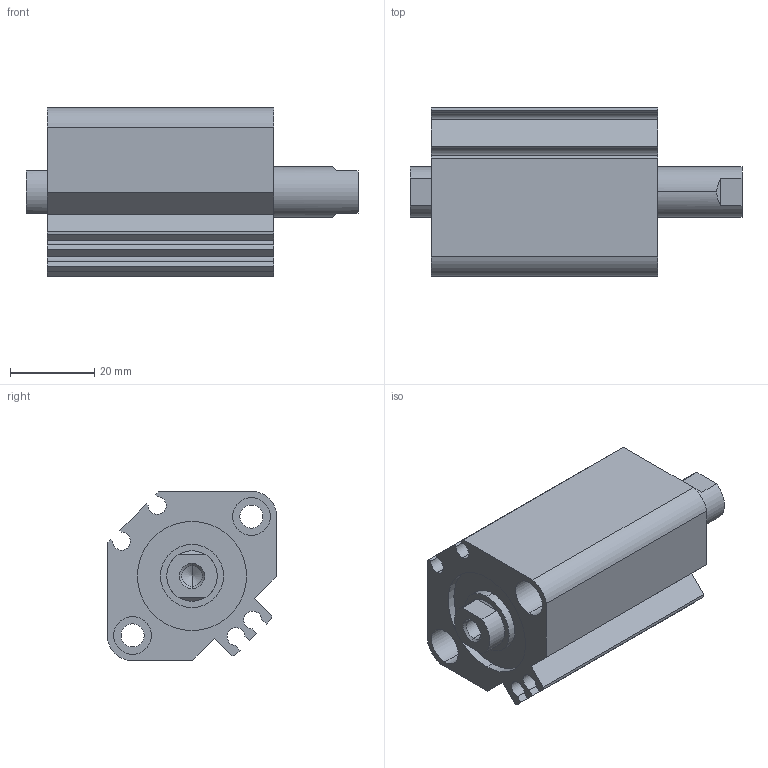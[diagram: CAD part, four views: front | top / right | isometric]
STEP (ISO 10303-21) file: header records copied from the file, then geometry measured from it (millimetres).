
FILE_DESCRIPTION (( 'STEP AP203' ), '1' );
FILE_NAME ('CCMB25-15F-P.STEP', '2020-08-05T11:08:56', ( '' ), ( '' ), 'SwSTEP 2.0', 'SolidWorks 2019', '' );
FILE_SCHEMA (( 'CONFIG_CONTROL_DESIGN' ));
Length unit declared in the file: millimetre
Products named in the file (1): CCMB25-15F-P
Bounding box: 79 x 40 x 40 mm (x, y, z)
Volume: 63771.6 mm3; surface area: 24412.9 mm2
Topology: 2 solids, 2 shells, 114 faces, 276 edges, 178 vertices
Faces by surface type: cylinder 52, plane 50, cone 12
Entity records: 3415 total; most frequent: DIRECTION 606, CARTESIAN_POINT 589, ORIENTED_EDGE 544, EDGE_CURVE 272, AXIS2_PLACEMENT_3D 227, VERTEX_POINT 178, LINE 152, VECTOR 152
